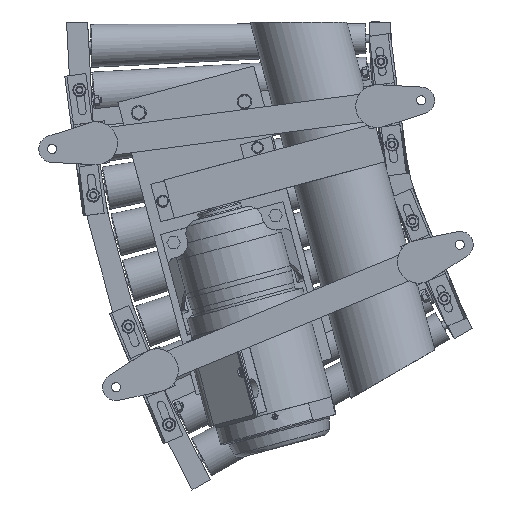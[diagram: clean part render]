
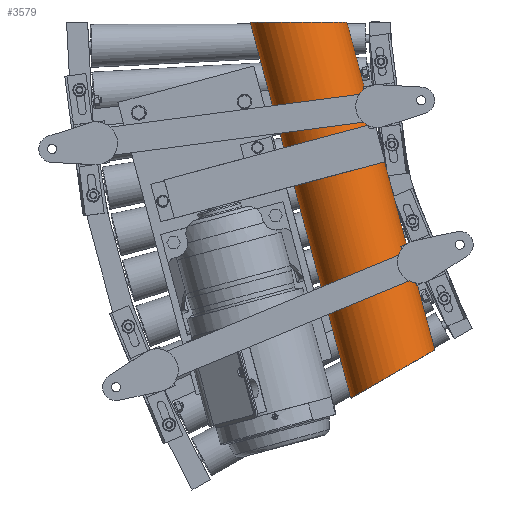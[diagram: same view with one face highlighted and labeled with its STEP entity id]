
A CAD part, front view. The second image highlights one B-rep face of the part: STEP entity #3579.
In plain terms, the highlighted cylindrical face has radius 66.3 mm (diameter 132.6 mm), a partial arc.
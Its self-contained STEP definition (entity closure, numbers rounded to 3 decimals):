
#3579=ADVANCED_FACE('',(#18767),#18766,.T.);
#18766=CYLINDRICAL_SURFACE('',#39715,66.3);
#18767=FACE_OUTER_BOUND('',#39716,.T.);
#39712=CARTESIAN_POINT('',(95.062,-151.7,17.16));
#39713=DIRECTION('',(-0.259,0.,0.966));
#39714=DIRECTION('',(0.966,0.,0.259));
#39715=AXIS2_PLACEMENT_3D('',#39712,#39713,#39714);
#39716=EDGE_LOOP('',(#53186,#53187,#53188,#53189));
#53186=ORIENTED_EDGE('',*,*,#62990,.F.);
#53187=ORIENTED_EDGE('',*,*,#62991,.F.);
#53188=ORIENTED_EDGE('',*,*,#62992,.F.);
#53189=ORIENTED_EDGE('',*,*,#62993,.F.);
#62990=EDGE_CURVE('',#88449,#88450,#88451,.T.);
#62991=EDGE_CURVE('',#88457,#88449,#88458,.T.);
#62992=EDGE_CURVE('',#88464,#88457,#88465,.T.);
#62993=EDGE_CURVE('',#88450,#88464,#88471,.T.);
#88449=VERTEX_POINT('',#127699);
#88450=VERTEX_POINT('',#127700);
#88451=(BOUNDED_CURVE() B_SPLINE_CURVE(2,(#127701,#127702,#127703,#127704,#127705),.UNSPECIFIED.,.F.,.F.) B_SPLINE_CURVE_WITH_KNOTS((3,2,3),(-3.142,-1.571,0.),.UNSPECIFIED.) CURVE() GEOMETRIC_REPRESENTATION_ITEM() RATIONAL_B_SPLINE_CURVE((1.,0.707,1.,0.707,1.)) REPRESENTATION_ITEM('') );
#88457=VERTEX_POINT('',#127706);
#88458=LINE('',#127707,#127708);
#88464=VERTEX_POINT('',#127710);
#88465=(BOUNDED_CURVE() B_SPLINE_CURVE(2,(#127711,#127712,#127713,#127714,#127715),.UNSPECIFIED.,.F.,.F.) B_SPLINE_CURVE_WITH_KNOTS((3,2,3),(-3.142,-1.571,0.),.UNSPECIFIED.) CURVE() GEOMETRIC_REPRESENTATION_ITEM() RATIONAL_B_SPLINE_CURVE((1.,0.707,1.,0.707,1.)) REPRESENTATION_ITEM('') );
#88471=LINE('',#127716,#127717);
#127699=CARTESIAN_POINT('',(293.123,-151.7,-465.85));
#127700=CARTESIAN_POINT('',(174.237,-151.7,-534.489));
#127701=CARTESIAN_POINT('',(293.123,-151.7,-465.85));
#127702=CARTESIAN_POINT('',(293.123,-218.,-465.85));
#127703=CARTESIAN_POINT('',(233.68,-218.,-500.17));
#127704=CARTESIAN_POINT('',(174.237,-218.,-534.489));
#127705=CARTESIAN_POINT('',(174.237,-151.7,-534.489));
#127706=CARTESIAN_POINT('',(168.299,-151.7,0.));
#127707=CARTESIAN_POINT('',(168.299,-151.7,0.));
#127708=VECTOR('',#127709,482.284);
#127709=DIRECTION('',(0.259,0.,-0.966));
#127710=CARTESIAN_POINT('',(31.022,-151.7,0.));
#127711=CARTESIAN_POINT('',(31.022,-151.7,0.));
#127712=CARTESIAN_POINT('',(31.022,-218.,0.));
#127713=CARTESIAN_POINT('',(99.66,-218.,0.));
#127714=CARTESIAN_POINT('',(168.299,-218.,0.));
#127715=CARTESIAN_POINT('',(168.299,-151.7,0.));
#127716=CARTESIAN_POINT('',(174.237,-151.7,-534.489));
#127717=VECTOR('',#127718,553.344);
#127718=DIRECTION('',(-0.259,0.,0.966));
